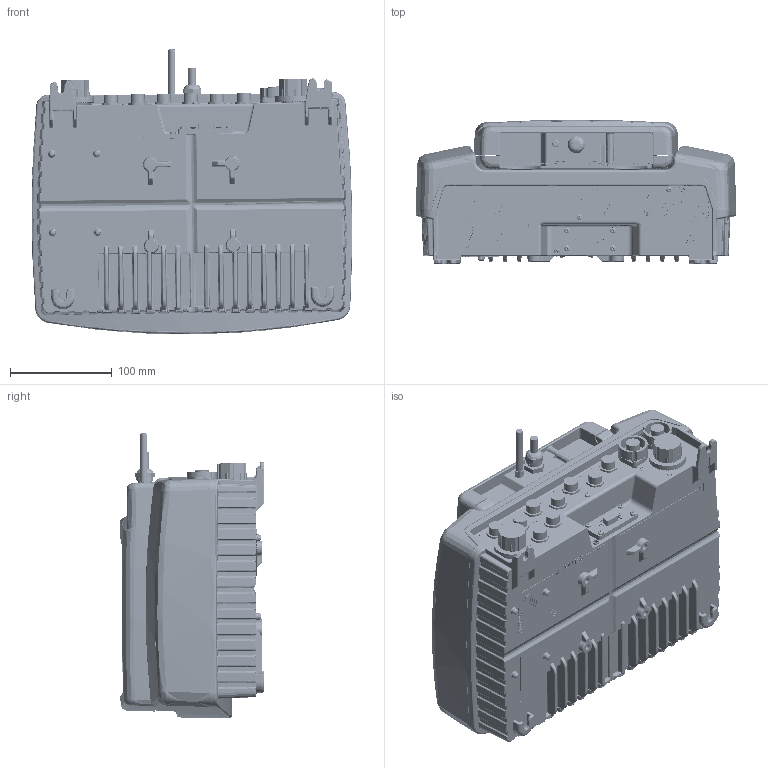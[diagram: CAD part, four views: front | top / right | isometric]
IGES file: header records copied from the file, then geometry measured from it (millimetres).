
Start section: SolidWorks IGES file using analytic representation for surfaces
Global section: file name: D:\HACH-LANGE-Berlin-Tresor01\Projects\LXG402-SC1000 Displaymodul\LXV402.TD.00000_SC1000 Displaymodul.IGS; native system: SolidWorks 2011; preprocessor: SolidWorks 2011; author: skrause; date: 110920.085019; units: millimetre
Bounding box: 315.06 x 141.71 x 279.81 mm (x, y, z)
Surface area: 1029072.4 mm2 (no closed solid volume)
Topology: 0 solids, 0 shells, 10786 faces, 101497 edges, 101053 vertices
Faces by surface type: bspline 6877, revolution 3909
